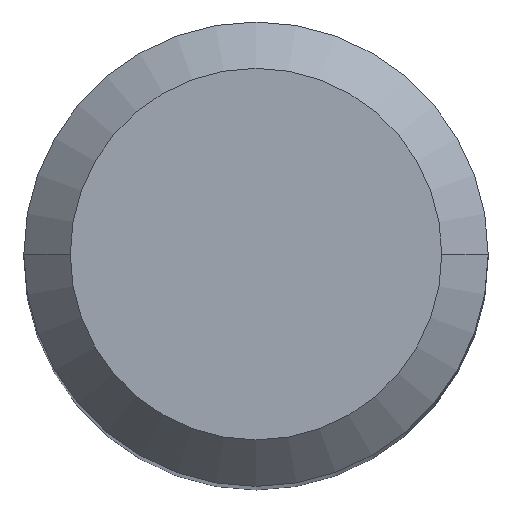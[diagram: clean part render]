
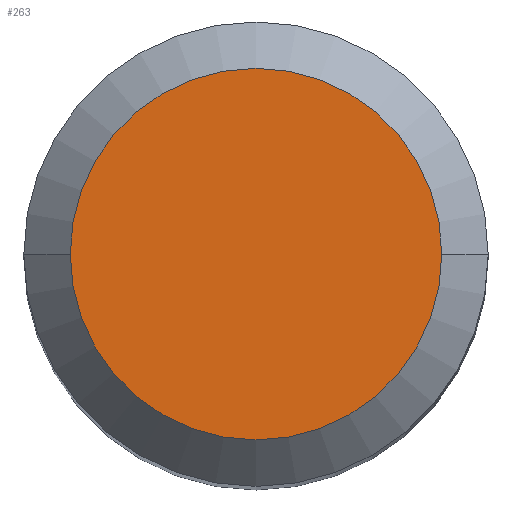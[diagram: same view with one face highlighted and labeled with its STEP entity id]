
A CAD part, top view. The second image highlights one B-rep face of the part: STEP entity #263.
In plain terms, the highlighted planar face has unit normal (0, 0, 1).
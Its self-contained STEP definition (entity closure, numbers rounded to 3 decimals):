
#2 = DIRECTION ( 'NONE',  ( 0., 0., 1. ) ) ;
#11 = CIRCLE ( 'NONE', #394, 4. ) ;
#19 = VERTEX_POINT ( 'NONE', #369 ) ;
#32 = CIRCLE ( 'NONE', #259, 4. ) ;
#34 = DIRECTION ( 'NONE',  ( -1., 0., 0. ) ) ;
#133 = CARTESIAN_POINT ( 'NONE',  ( 0., 4., 0. ) ) ;
#153 = VERTEX_POINT ( 'NONE', #235 ) ;
#182 = DIRECTION ( 'NONE',  ( 1., 0., 0. ) ) ;
#226 = CARTESIAN_POINT ( 'NONE',  ( 0., 0., 0. ) ) ;
#235 = CARTESIAN_POINT ( 'NONE',  ( -4., 0., 0. ) ) ;
#255 = EDGE_CURVE ( 'NONE', #19, #153, #32, .T. ) ;
#259 = AXIS2_PLACEMENT_3D ( 'NONE', #500, #283, #34 ) ;
#263 = ADVANCED_FACE ( 'NONE', ( #515 ), #416, .T. ) ;
#273 = DIRECTION ( 'NONE',  ( -1., 0., 0. ) ) ;
#283 = DIRECTION ( 'NONE',  ( 0., 0., -1. ) ) ;
#345 = EDGE_CURVE ( 'NONE', #153, #19, #11, .T. ) ;
#356 = AXIS2_PLACEMENT_3D ( 'NONE', #133, #2, #182 ) ;
#369 = CARTESIAN_POINT ( 'NONE',  ( 4., 0., 0. ) ) ;
#371 = DIRECTION ( 'NONE',  ( 0., 0., -1. ) ) ;
#394 = AXIS2_PLACEMENT_3D ( 'NONE', #226, #371, #273 ) ;
#416 = PLANE ( 'NONE',  #356 ) ;
#431 = EDGE_LOOP ( 'NONE', ( #470, #560 ) ) ;
#470 = ORIENTED_EDGE ( 'NONE', *, *, #345, .F. ) ;
#500 = CARTESIAN_POINT ( 'NONE',  ( 0., 0., 0. ) ) ;
#515 = FACE_OUTER_BOUND ( 'NONE', #431, .T. ) ;
#560 = ORIENTED_EDGE ( 'NONE', *, *, #255, .F. ) ;
